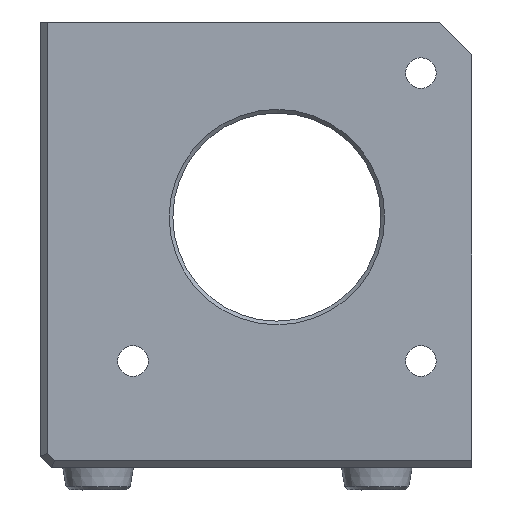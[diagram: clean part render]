
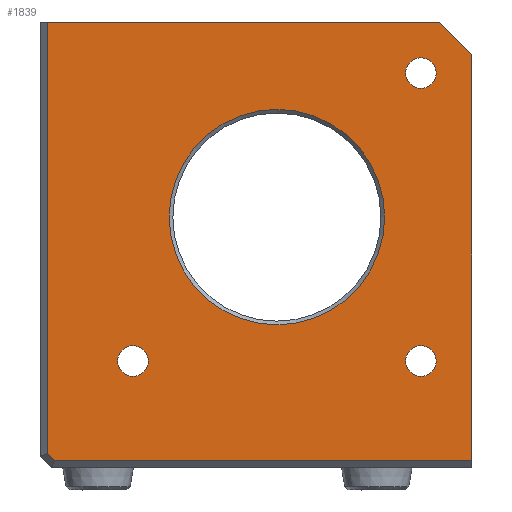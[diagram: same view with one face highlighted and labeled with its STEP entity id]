
A CAD part, front view. The second image highlights one B-rep face of the part: STEP entity #1839.
In plain terms, the highlighted planar face has unit normal (0, -1, 0).
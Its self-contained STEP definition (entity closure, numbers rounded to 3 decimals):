
#91=FACE_BOUND('',#339,.T.);
#92=FACE_BOUND('',#340,.T.);
#93=FACE_BOUND('',#341,.T.);
#94=FACE_BOUND('',#342,.T.);
#118=PLANE('',#1981);
#221=FACE_OUTER_BOUND('',#338,.T.);
#338=EDGE_LOOP('',(#1456,#1457,#1458,#1459,#1460,#1461));
#339=EDGE_LOOP('',(#1462));
#340=EDGE_LOOP('',(#1463));
#341=EDGE_LOOP('',(#1464));
#342=EDGE_LOOP('',(#1465));
#481=LINE('',#3179,#653);
#482=LINE('',#3181,#654);
#483=LINE('',#3183,#655);
#484=LINE('',#3185,#656);
#485=LINE('',#3187,#657);
#486=LINE('',#3188,#658);
#653=VECTOR('',#2287,10.);
#654=VECTOR('',#2288,10.);
#655=VECTOR('',#2289,10.);
#656=VECTOR('',#2290,10.);
#657=VECTOR('',#2291,10.);
#658=VECTOR('',#2292,10.);
#786=CIRCLE('',#1977,11.6);
#789=CIRCLE('',#1982,1.65);
#790=CIRCLE('',#1983,1.65);
#791=CIRCLE('',#1984,1.65);
#905=VERTEX_POINT('',#3167);
#908=VERTEX_POINT('',#3177);
#909=VERTEX_POINT('',#3178);
#910=VERTEX_POINT('',#3180);
#911=VERTEX_POINT('',#3182);
#912=VERTEX_POINT('',#3184);
#913=VERTEX_POINT('',#3186);
#914=VERTEX_POINT('',#3189);
#915=VERTEX_POINT('',#3191);
#916=VERTEX_POINT('',#3193);
#1104=EDGE_CURVE('',#905,#905,#786,.T.);
#1109=EDGE_CURVE('',#908,#909,#481,.T.);
#1110=EDGE_CURVE('',#910,#908,#482,.T.);
#1111=EDGE_CURVE('',#911,#910,#483,.T.);
#1112=EDGE_CURVE('',#912,#911,#484,.T.);
#1113=EDGE_CURVE('',#913,#912,#485,.T.);
#1114=EDGE_CURVE('',#909,#913,#486,.T.);
#1115=EDGE_CURVE('',#914,#914,#789,.T.);
#1116=EDGE_CURVE('',#915,#915,#790,.T.);
#1117=EDGE_CURVE('',#916,#916,#791,.T.);
#1456=ORIENTED_EDGE('',*,*,#1109,.F.);
#1457=ORIENTED_EDGE('',*,*,#1110,.F.);
#1458=ORIENTED_EDGE('',*,*,#1111,.F.);
#1459=ORIENTED_EDGE('',*,*,#1112,.F.);
#1460=ORIENTED_EDGE('',*,*,#1113,.F.);
#1461=ORIENTED_EDGE('',*,*,#1114,.F.);
#1462=ORIENTED_EDGE('',*,*,#1115,.T.);
#1463=ORIENTED_EDGE('',*,*,#1116,.T.);
#1464=ORIENTED_EDGE('',*,*,#1117,.T.);
#1465=ORIENTED_EDGE('',*,*,#1104,.F.);
#1839=ADVANCED_FACE('',(#221,#91,#92,#93,#94),#118,.T.);
#1977=AXIS2_PLACEMENT_3D('',#3168,#2275,#2276);
#1981=AXIS2_PLACEMENT_3D('',#3176,#2285,#2286);
#1982=AXIS2_PLACEMENT_3D('',#3190,#2293,#2294);
#1983=AXIS2_PLACEMENT_3D('',#3192,#2295,#2296);
#1984=AXIS2_PLACEMENT_3D('',#3194,#2297,#2298);
#2275=DIRECTION('center_axis',(0.,-1.,0.));
#2276=DIRECTION('ref_axis',(-1.,0.,0.));
#2285=DIRECTION('center_axis',(0.,-1.,0.));
#2286=DIRECTION('ref_axis',(1.,0.,0.));
#2287=DIRECTION('',(0.707,0.,-0.707));
#2288=DIRECTION('',(1.,0.,0.));
#2289=DIRECTION('',(0.,0.,1.));
#2290=DIRECTION('',(-0.707,0.,0.707));
#2291=DIRECTION('',(-1.,0.,0.));
#2292=DIRECTION('',(0.,0.,-1.));
#2293=DIRECTION('center_axis',(0.,1.,0.));
#2294=DIRECTION('ref_axis',(-1.,0.,0.));
#2295=DIRECTION('center_axis',(0.,1.,0.));
#2296=DIRECTION('ref_axis',(-1.,0.,0.));
#2297=DIRECTION('center_axis',(0.,1.,0.));
#2298=DIRECTION('ref_axis',(-1.,0.,0.));
#3167=CARTESIAN_POINT('',(13.512,-56.5,92.309));
#3168=CARTESIAN_POINT('Origin',(1.912,-56.5,92.309));
#3176=CARTESIAN_POINT('Origin',(-23.588,-56.5,65.309));
#3177=CARTESIAN_POINT('',(19.412,-56.5,113.309));
#3178=CARTESIAN_POINT('',(22.912,-56.5,109.809));
#3179=CARTESIAN_POINT('',(21.537,-56.5,111.184));
#3180=CARTESIAN_POINT('',(-22.788,-56.5,113.309));
#3181=CARTESIAN_POINT('',(-23.588,-56.5,113.309));
#3182=CARTESIAN_POINT('',(-22.788,-56.5,66.89));
#3183=CARTESIAN_POINT('',(-22.788,-56.5,65.309));
#3184=CARTESIAN_POINT('',(-22.007,-56.5,66.109));
#3185=CARTESIAN_POINT('',(-22.397,-56.5,66.499));
#3186=CARTESIAN_POINT('',(22.912,-56.5,66.109));
#3187=CARTESIAN_POINT('',(-13.275,-56.5,66.109));
#3188=CARTESIAN_POINT('',(22.912,-56.5,65.309));
#3189=CARTESIAN_POINT('',(-11.938,-56.5,76.809));
#3190=CARTESIAN_POINT('Origin',(-13.588,-56.5,76.809));
#3191=CARTESIAN_POINT('',(19.062,-56.5,107.809));
#3192=CARTESIAN_POINT('Origin',(17.412,-56.5,107.809));
#3193=CARTESIAN_POINT('',(19.062,-56.5,76.809));
#3194=CARTESIAN_POINT('Origin',(17.412,-56.5,76.809));
